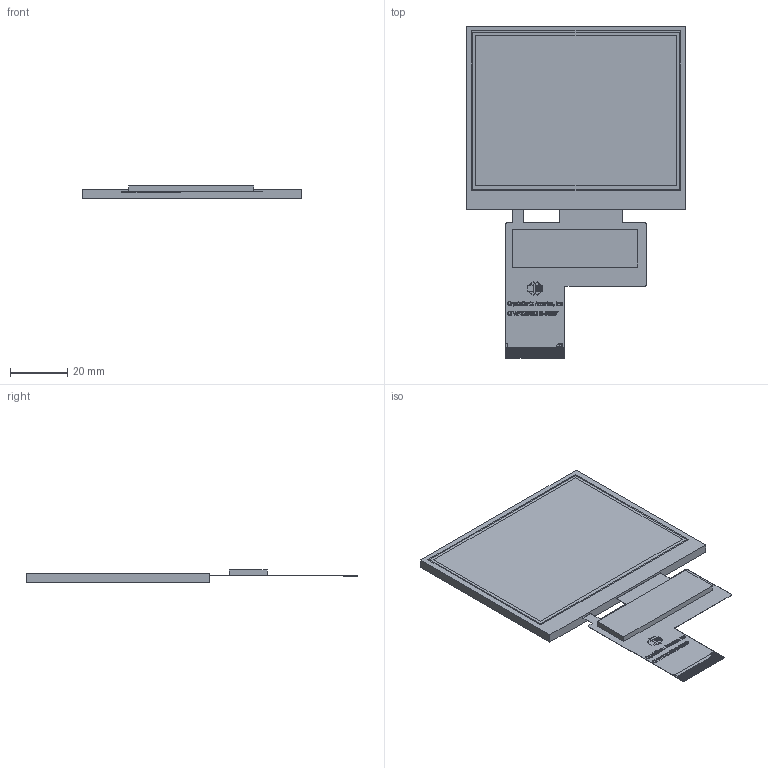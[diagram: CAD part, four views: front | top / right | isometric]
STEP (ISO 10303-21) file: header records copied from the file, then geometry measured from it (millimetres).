
FILE_DESCRIPTION (( 'STEP AP214' ), '1' );
FILE_NAME ('CFAF320240H0-035SN.STEP', '2022-05-11T15:43:19', ( '' ), ( '' ), 'SwSTEP 2.0', 'SolidWorks 2021', '' );
FILE_SCHEMA (( 'AUTOMOTIVE_DESIGN' ));
Length unit declared in the file: millimetre
Products named in the file (1): CFAF320240H0-035SN
Bounding box: 76.8 x 115.9 x 4.25 mm (x, y, z)
Volume: 16806 mm3; surface area: 15758.9 mm2
Topology: 97 solids, 97 shells, 965 faces, 2316 edges, 1548 vertices
Faces by surface type: plane 701, bspline 260, cylinder 4
Entity records: 52698 total; most frequent: CARTESIAN_POINT 20426, ORIENTED_EDGE 4632, DIRECTION 3216, EDGE_CURVE 2316, VECTOR 1788, LINE 1788, VERTEX_POINT 1548, UNCERTAINTY_MEASURE_WITH_UNIT 1057
